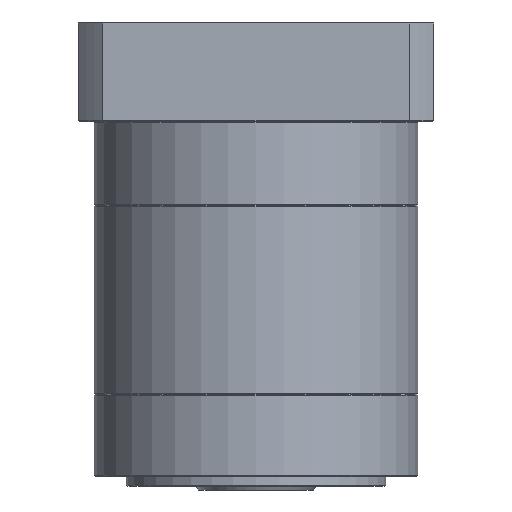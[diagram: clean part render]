
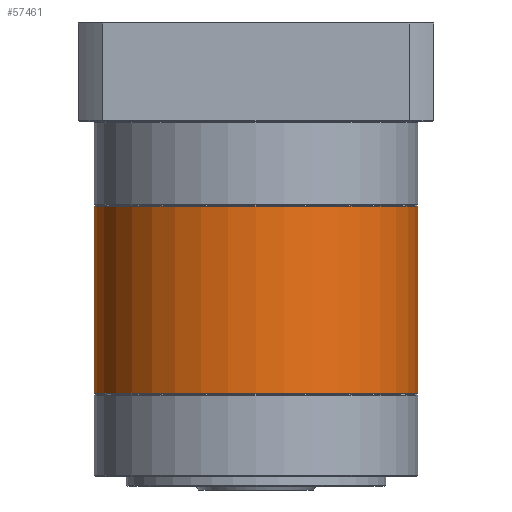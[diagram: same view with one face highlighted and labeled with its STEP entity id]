
A CAD part, front view. The second image highlights one B-rep face of the part: STEP entity #57461.
In plain terms, the highlighted cylindrical face has radius 81 mm (diameter 162 mm), a partial arc.
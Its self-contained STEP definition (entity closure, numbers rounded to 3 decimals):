
#1037 = DIRECTION ( 'NONE',  ( -1., 0., 0. ) ) ;
#19627 = DIRECTION ( 'NONE',  ( 0., 0., -1. ) ) ;
#20049 = VECTOR ( 'NONE', #25177, 1000. ) ;
#23859 = CARTESIAN_POINT ( 'NONE',  ( -47.035, 114.86, -74.922 ) ) ;
#25177 = DIRECTION ( 'NONE',  ( 0., 0., -1. ) ) ;
#25281 = LINE ( 'NONE', #129204, #20049 ) ;
#29694 = CARTESIAN_POINT ( 'NONE',  ( -128.035, 114.86, -75.422 ) ) ;
#30591 = DIRECTION ( 'NONE',  ( -1., 0., 0. ) ) ;
#34331 = VERTEX_POINT ( 'NONE', #48761 ) ;
#35256 = VERTEX_POINT ( 'NONE', #29694 ) ;
#41541 = CARTESIAN_POINT ( 'NONE',  ( -47.035, 114.86, -168.922 ) ) ;
#43232 = DIRECTION ( 'NONE',  ( 0., 0., -1. ) ) ;
#46607 = EDGE_CURVE ( 'NONE', #49015, #34331, #126566, .T. ) ;
#48599 = ORIENTED_EDGE ( 'NONE', *, *, #79487, .F. ) ;
#48761 = CARTESIAN_POINT ( 'NONE',  ( 33.965, 114.86, -168.922 ) ) ;
#49015 = VERTEX_POINT ( 'NONE', #63303 ) ;
#50323 = EDGE_CURVE ( 'NONE', #35256, #49015, #114545, .T. ) ;
#57461 = ADVANCED_FACE ( 'NONE', ( #134821 ), #141959, .T. ) ;
#63303 = CARTESIAN_POINT ( 'NONE',  ( -128.035, 114.86, -168.922 ) ) ;
#64093 = AXIS2_PLACEMENT_3D ( 'NONE', #121586, #133015, #64833 ) ;
#64833 = DIRECTION ( 'NONE',  ( -1., 0., 0. ) ) ;
#66953 = CIRCLE ( 'NONE', #64093, 81. ) ;
#68323 = ORIENTED_EDGE ( 'NONE', *, *, #46607, .T. ) ;
#73942 = EDGE_LOOP ( 'NONE', ( #48599, #118801, #81771, #68323 ) ) ;
#74903 = DIRECTION ( 'NONE',  ( 0., 0., 1. ) ) ;
#78868 = AXIS2_PLACEMENT_3D ( 'NONE', #41541, #74903, #30591 ) ;
#79487 = EDGE_CURVE ( 'NONE', #133868, #34331, #25281, .T. ) ;
#81771 = ORIENTED_EDGE ( 'NONE', *, *, #50323, .T. ) ;
#101545 = AXIS2_PLACEMENT_3D ( 'NONE', #23859, #43232, #1037 ) ;
#114545 = LINE ( 'NONE', #121637, #136022 ) ;
#118801 = ORIENTED_EDGE ( 'NONE', *, *, #145575, .T. ) ;
#121586 = CARTESIAN_POINT ( 'NONE',  ( -47.035, 114.86, -75.422 ) ) ;
#121637 = CARTESIAN_POINT ( 'NONE',  ( -128.035, 114.86, -74.922 ) ) ;
#126566 = CIRCLE ( 'NONE', #78868, 81. ) ;
#129204 = CARTESIAN_POINT ( 'NONE',  ( 33.965, 114.86, -74.922 ) ) ;
#133015 = DIRECTION ( 'NONE',  ( 0., 0., -1. ) ) ;
#133868 = VERTEX_POINT ( 'NONE', #140019 ) ;
#134821 = FACE_OUTER_BOUND ( 'NONE', #73942, .T. ) ;
#136022 = VECTOR ( 'NONE', #19627, 1000. ) ;
#140019 = CARTESIAN_POINT ( 'NONE',  ( 33.965, 114.86, -75.422 ) ) ;
#141959 = CYLINDRICAL_SURFACE ( 'NONE', #101545, 81. ) ;
#145575 = EDGE_CURVE ( 'NONE', #133868, #35256, #66953, .T. ) ;
